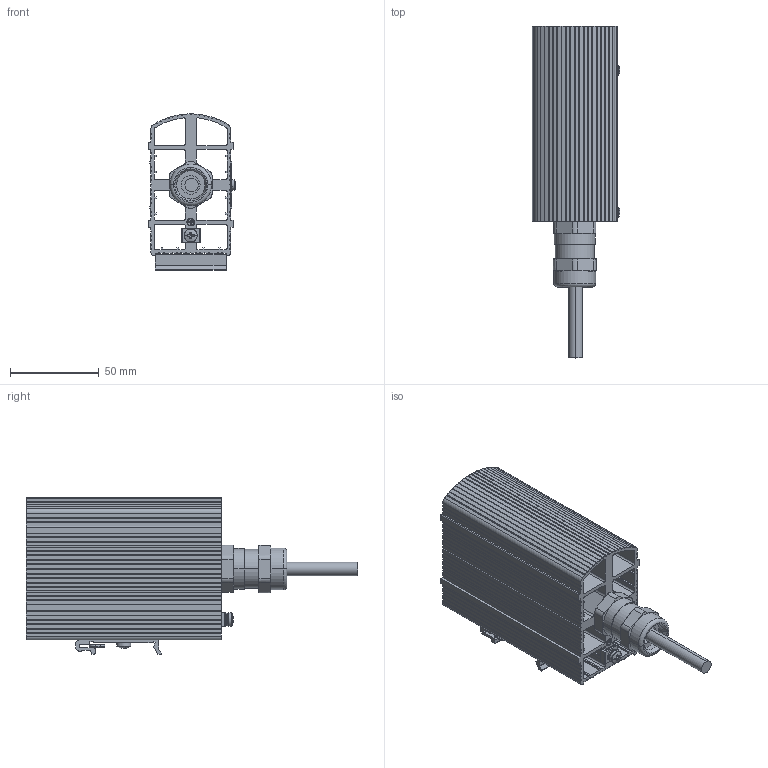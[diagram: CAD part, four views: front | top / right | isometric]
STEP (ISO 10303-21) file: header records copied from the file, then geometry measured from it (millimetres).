
FILE_DESCRIPTION (( 'STEP AP214' ), '1' );
FILE_NAME ('02031.0-00_Ex-Heizgeraet.STEP', '2017-08-08T12:03:44', ( '' ), ( '' ), 'SwSTEP 2.0', 'SolidWorks 2017', '' );
FILE_SCHEMA (( 'AUTOMOTIVE_DESIGN' ));
Length unit declared in the file: millimetre
Products named in the file (1): 02031.0-00_Ex-Heizgeraet
Bounding box: 49.42 x 187 x 88 mm (x, y, z)
Surface area: 109728.6 mm2 (no closed solid volume)
Topology: 0 solids, 14 shells, 706 faces, 2198 edges, 1472 vertices
Faces by surface type: plane 495, cylinder 131, cone 53, torus 18, sphere 8, bspline 1
Entity records: 32373 total; most frequent: CARTESIAN_POINT 5031, ORIENTED_EDGE 4107, DIRECTION 3904, EDGE_CURVE 2198, VECTOR 1656, LINE 1656, VERTEX_POINT 1472, AXIS2_PLACEMENT_3D 1124
